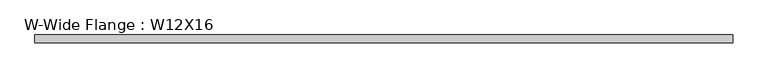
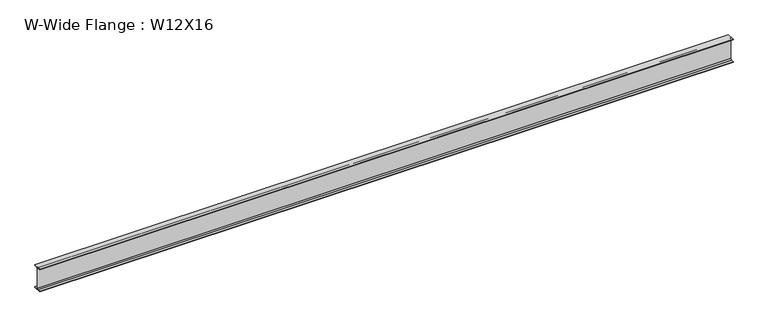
"""IFC4 building model written with IfcOpenShell, lengths in millimetres: beam geometry, W-Wide Flange : W12X16."""

from ifc_helpers import new_model, si_unit, point, frame, frame_2d, origin, place, context, project, spatial, polyline, circle_curve, trimmed, segment, composite_curve, outline, extrude, source, transform, mapped, element, save


def w_wide_flange_w12x16_ddd03c39(model_context):
    return source(origin(), model_context, "Body", "SweptSolid", [
        extrude(outline(composite_curve([segment(polyline([(50.673, -145.669), (50.673, -152.4), (-50.673, -152.4), (-50.673, -145.669), (-16.7005, -145.669)]), True, "CONTINUOUS"), segment(trimmed(circle_curve(frame_2d((-16.7005, -131.7625)), 13.9065), [point((-16.7005, -145.669))], [point((-2.794, -131.7625))], True, "CARTESIAN"), True, "CONTINUOUS"), segment(polyline([(-2.794, -131.7625), (-2.794, 131.7625)]), True, "CONTINUOUS"), segment(trimmed(circle_curve(frame_2d((-16.7005, 131.7625)), 13.9065), [point((-2.794, 131.7625))], [point((-16.7005, 145.669))], True, "CARTESIAN"), True, "CONTINUOUS"), segment(polyline([(-16.7005, 145.669), (-50.673, 145.669), (-50.673, 152.4), (50.673, 152.4), (50.673, 145.669), (16.7005, 145.669)]), True, "CONTINUOUS"), segment(trimmed(circle_curve(frame_2d((16.7005, 131.7625)), 13.9065), [point((16.7005, 145.669))], [point((2.794, 131.7625))], True, "CARTESIAN"), True, "CONTINUOUS"), segment(polyline([(2.794, 131.7625), (2.794, -131.7625)]), True, "CONTINUOUS"), segment(trimmed(circle_curve(frame_2d((16.7005, -131.7625)), 13.9065), [point((2.794, -131.7625))], [point((16.7005, -145.669))], True, "CARTESIAN"), True, "CONTINUOUS"), segment(polyline([(16.7005, -145.669), (50.673, -145.669)]), True, "CONTINUOUS")], self_intersect=False)), frame((-4381.4503906, 0.0, 0.0), z_axis=(1.0, 0.0, 0.0), x_axis=(0.0, 1.0, 0.0)), (0.0, 0.0, 1.0), 8839.1007812),
    ])


if __name__ == "__main__":
    model = new_model("IFC4")
    model_context = context("Model", 3, world=origin())
    ifc_project = project(units=[si_unit("LENGTHUNIT", "METRE", prefix="MILLI")], contexts=[model_context])
    site = spatial("IfcSite", under=ifc_project)
    building = spatial("IfcBuilding", under=site)
    placement = place(None, origin())
    w_wide_flange_w12x16_shape = w_wide_flange_w12x16_ddd03c39(model_context)
    element("IfcBeam", 1, ObjectType="W-Wide Flange : W12X16", at=placement, inside=building, context=model_context, shape_type="MappedRepresentation", body=[
        mapped(w_wide_flange_w12x16_shape, transform((0.0, 0.0, 0.0), x_axis=(1.0, 0.0, 0.0), y_axis=(0.0, 1.0, 0.0), z_axis=(0.0, 0.0, 1.0))),
    ])
    save(model, "model.ifc")
